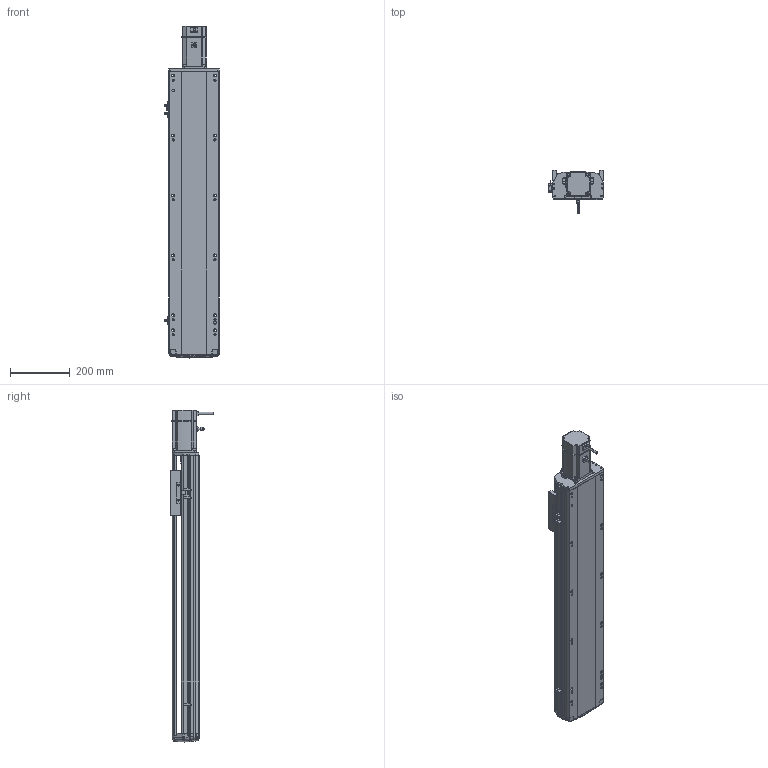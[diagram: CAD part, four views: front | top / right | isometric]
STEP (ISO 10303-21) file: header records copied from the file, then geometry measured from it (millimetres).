
FILE_DESCRIPTION (( 'STEP AP214' ), '1' );
FILE_NAME ('RTH17-XX-700-E-M75-C4.STEP', '2025-10-24T09:38:42', ( '' ), ( '' ), 'SwSTEP 2.0', 'SolidWorks 2018', '' );
FILE_SCHEMA (( 'AUTOMOTIVE_DESIGN' ));
Length unit declared in the file: millimetre
Products named in the file (9): N_RTH17-E-011底座^RTH17-XX-XX-E-M75-C4（方程式）; N_RTH17-E-004丝杆螺母连接座^RTH17-XX-XX-E-M75-C4（方程式）; N_RTH-L-012 感应片(外置)^RTH17-XX-XX-E-M75-C4（方程式）; RTH17-XX-700-E-M75-C4; N_M75^RTH17-XX-XX-E-M75-C4（方程式）; N_RTH17-GY-001P^RTH17-XX-XX-E-M75-C4（方程式）; N_OMRON EE-SX672 換覜ん^RTH17-XX-XX-E-M75-C4ㄗ源最宒ㄘ; N_RTH17-E-007上盖^RTH17-XX-XX-E-M75-C4（方程式）; N_RTH17-E-008-P75电机板^RTH17-XX-XX-E-M75-C4（方程式）
Assembly tree (10 placements, depth 2):
  RTH17-XX-700-E-M75-C4
    N_RTH17-E-011底座^RTH17-XX-XX-E-M75-C4（方程式）
    N_RTH17-E-007上盖^RTH17-XX-XX-E-M75-C4（方程式）
    N_M75^RTH17-XX-XX-E-M75-C4（方程式）
    N_RTH17-E-008-P75电机板^RTH17-XX-XX-E-M75-C4（方程式）
    N_OMRON EE-SX672 換覜ん^RTH17-XX-XX-E-M75-C4ㄗ源最宒ㄘ  x3
    N_RTH-L-012 感应片(外置)^RTH17-XX-XX-E-M75-C4（方程式）
    N_RTH17-E-004丝杆螺母连接座^RTH17-XX-XX-E-M75-C4（方程式）
    N_RTH17-GY-001P^RTH17-XX-XX-E-M75-C4（方程式）
Bounding box: 183.5 x 145.7 x 1108.19 mm (x, y, z)
Volume: 8169705 mm3; surface area: 1076924.7 mm2
Topology: 9 solids, 11 shells, 1780 faces, 4929 edges, 3194 vertices
Faces by surface type: plane 824, cylinder 542, bspline 377, cone 28, torus 9
Entity records: 52534 total; most frequent: CARTESIAN_POINT 20663, ORIENTED_EDGE 6882, DIRECTION 5777, EDGE_CURVE 3445, VERTEX_POINT 2230, AXIS2_PLACEMENT_3D 1967, LINE 1843, VECTOR 1843
